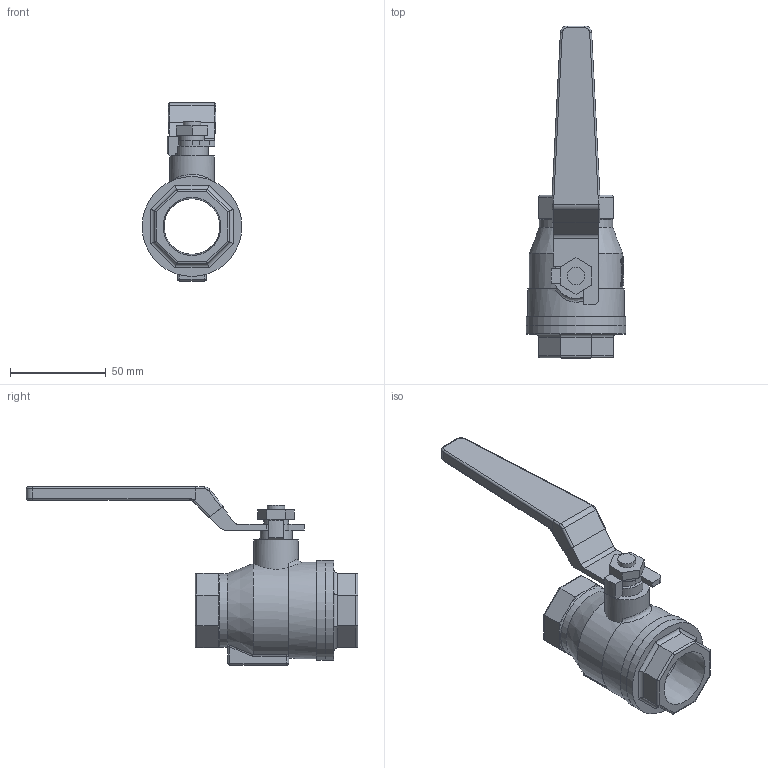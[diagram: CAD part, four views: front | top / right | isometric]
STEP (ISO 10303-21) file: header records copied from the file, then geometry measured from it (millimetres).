
FILE_DESCRIPTION(/* description */ ('ｉｎｏｃ'),/* implementation_level */ '2;1');
FILE_NAME(/* name */ 'C:\Users\Fujimoto-s\OneDrive\Inventor\WorkSpace\\X2\305D306E4ED6\X0\\ホームページ用\\X2\30C030A630F330ED30FC30C97D206750\X0\\ねじ込み継手\SFVM×25A\SFVM×25A.stp',/* time_stamp */ '2024-08-08T10:36:57+09:00',/* author */ ('Fujimoto-s'),/* organization */ (''),/* preprocessor_version */ 'ST-DEVELOPER v15.2',/* originating_system */ 'Autodesk Inventor 2014',/* authorisation */ '');
FILE_SCHEMA (('AUTOMOTIVE_DESIGN { 1 0 10303 214 3 1 1 }'));
Length unit declared in the file: millimetre
Products named in the file (1): SFVM×25A
Bounding box: 52.2 x 173.2 x 93 mm (x, y, z)
Volume: 114513.9 mm3; surface area: 33274.6 mm2
Topology: 2 solids, 2 shells, 214 faces, 530 edges, 330 vertices
Faces by surface type: plane 105, cylinder 81, torus 11, bspline 8, cone 5, sphere 4
Full cylindrical faces by diameter (mm): 1.748 x1, 1.75 x1, 1.95 x1, 9.2 x1, 13 x1, 16.8 x1, 23.3 x1, 29 x1, 38.5 x1, 48.8 x1, 50.3 x1, 52.2 x2
Entity records: 7048 total; most frequent: CARTESIAN_POINT 2021, ORIENTED_EDGE 1010, DIRECTION 1006, EDGE_CURVE 504, AXIS2_PLACEMENT_3D 360, VERTEX_POINT 322, LINE 286, VECTOR 286
